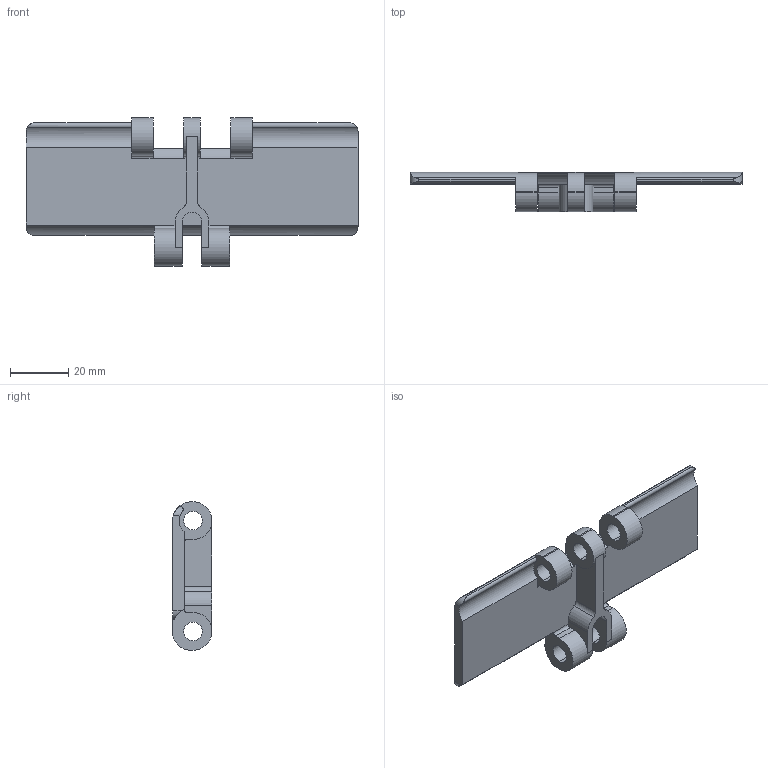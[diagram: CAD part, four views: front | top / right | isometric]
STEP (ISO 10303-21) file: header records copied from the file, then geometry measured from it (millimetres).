
FILE_DESCRIPTION (( 'STEP AP214' ), '1' );
FILE_NAME ('820_K450.STEP', '2011-04-14T11:49:57', ( '.' ), ( '' ), 'SwSTEP 2.0', 'SolidWorks 2010', '' );
FILE_SCHEMA (( 'AUTOMOTIVE_DESIGN' ));
Length unit declared in the file: millimetre
Products named in the file (1): 820_K450
Bounding box: 114.3 x 13.68 x 51.1 mm (x, y, z)
Volume: 19837.3 mm3; surface area: 12723.4 mm2
Topology: 1 solids, 1 shells, 85 faces, 249 edges, 166 vertices
Faces by surface type: cylinder 51, plane 34
Entity records: 3009 total; most frequent: CARTESIAN_POINT 621, DIRECTION 505, ORIENTED_EDGE 498, EDGE_CURVE 249, AXIS2_PLACEMENT_3D 182, VERTEX_POINT 166, VECTOR 141, LINE 141
